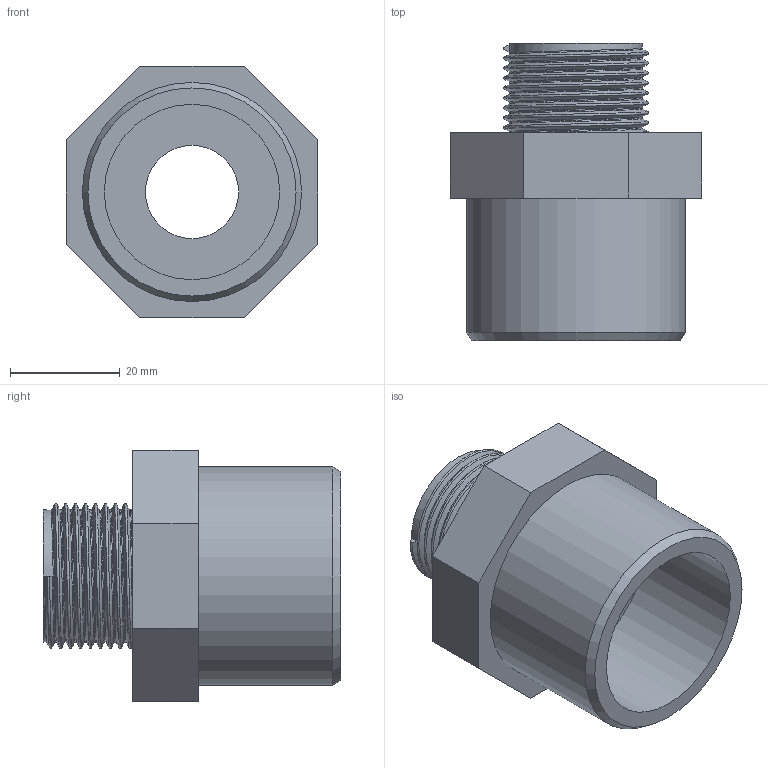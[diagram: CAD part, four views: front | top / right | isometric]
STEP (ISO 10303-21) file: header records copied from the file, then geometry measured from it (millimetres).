
FILE_DESCRIPTION(/* description */ ('PVC adattatore incollaggio-filettatura BSP maschio'),/* implementation_level */ '2;1');
FILE_NAME(/* name */ 'C:\Users\POLYPIPE\Desktop\DATASET INVENTOR\LIBRERIA EFFAST\RACCORDI 3DxWEB\RGR\3D_RGRAMG\3D_RGRAMG032C.stp',/* time_stamp */ '2018-01-19T17:35:19+01:00',/* author */ ('POLYPIPE'),/* organization */ ('Polypipe Italia s.r.l.'),/* preprocessor_version */ 'ST-DEVELOPER v16.1',/* originating_system */ 'Autodesk Inventor 2016',/* authorisation */ '');
FILE_SCHEMA (('CONFIG_CONTROL_DESIGN'));
Length unit declared in the file: millimetre
Products named in the file (1): 3D_RGRAMG
Bounding box: 46 x 54.3 x 46 mm (x, y, z)
Volume: 36126.3 mm3; surface area: 14181.1 mm2
Topology: 1 solids, 1 shells, 26 faces, 56 edges, 36 vertices
Faces by surface type: plane 15, cylinder 5, bspline 5, cone 1
Full cylindrical faces by diameter (mm): 17 x1, 18 x1, 24.117 x1, 32 x1, 40 x1
Entity records: 3949 total; most frequent: CARTESIAN_POINT 3396, ORIENTED_EDGE 102, DIRECTION 97, EDGE_CURVE 51, EDGE_LOOP 37, VERTEX_POINT 36, AXIS2_PLACEMENT_3D 35, LINE 27
